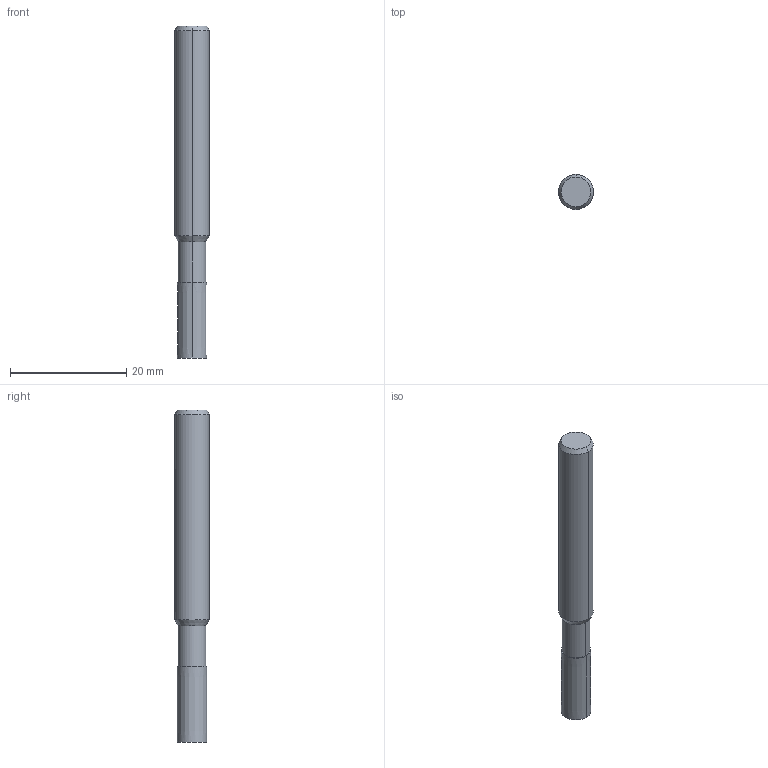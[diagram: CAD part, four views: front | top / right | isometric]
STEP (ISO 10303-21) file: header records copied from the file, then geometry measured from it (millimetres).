
FILE_DESCRIPTION(('no description'),'unknown implementation level');
FILE_NAME('solidMNs_dRvXKXhLvs0SQJIbAXzxL78_1.STP',' ',('CIMSOURCE GmbH'),('CADClick - KiM GmbH - www.kimweb.de'),'unknown preprocess','ACIS','unknown authorization');
FILE_SCHEMA(('automotive_design'));
Length unit declared in the file: millimetre
Products named in the file (2): NOCUT; CUT
Bounding box: 6 x 6 x 57 mm (x, y, z)
Volume: 1419.5 mm3; surface area: 1297.4 mm2
Topology: 2 solids, 2 shells, 41 faces, 93 edges, 58 vertices
Faces by surface type: cylinder 16, cone 14, plane 11
Entity records: 2488 total; most frequent: CARTESIAN_POINT 414, DIRECTION 211, STYLED_ITEM 194, PRESENTATION_STYLE_ASSIGNMENT 194, COLOUR_RGB 194, ORIENTED_EDGE 186, EDGE_CURVE 93, CURVE_STYLE 93
